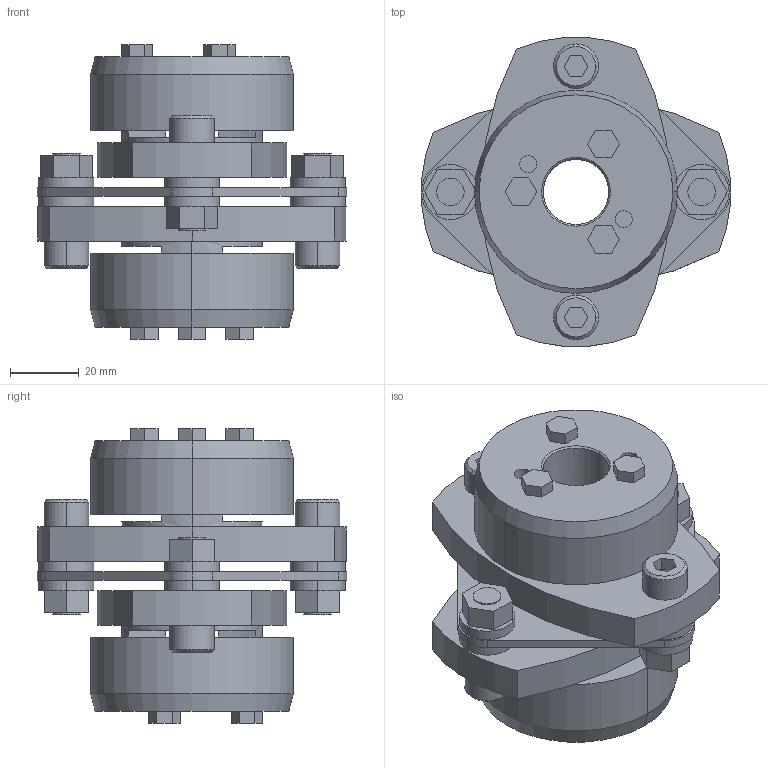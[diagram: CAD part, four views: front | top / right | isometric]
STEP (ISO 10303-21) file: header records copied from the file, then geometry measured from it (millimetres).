
FILE_DESCRIPTION((''),'2;1');
FILE_NAME('LCS-90T7-19×19.stp','2011-09-09T09:50:55',(''),(''),'AutoCAD STEP 2000i','AutoCAD 2000i',', , ');
FILE_SCHEMA(('CONFIG_CONTROL_DESIGN'));
Length unit declared in the file: millimetre
Products named in the file (7): LCS-90T7-19×19; 忣兜1; LC90T7-T019-1; LC90T7-T019; LC90-B019-1; LC90-B019; LCS90-ITA
Assembly tree (6 placements, depth 2):
  LCS-90T7-19×19
    忣兜1
    LC90T7-T019-1
    LC90T7-T019
    LC90-B019-1
    LC90-B019
    LCS90-ITA
Bounding box: 90 x 89.94 x 85.5 mm (x, y, z)
Volume: 208599 mm3; surface area: 52520 mm2
Topology: 1 solids, 1 shells, 232 faces, 568 edges, 372 vertices
Faces by surface type: plane 132, cylinder 80, cone 20
Entity records: 7063 total; most frequent: DIRECTION 1242, CARTESIAN_POINT 1179, ORIENTED_EDGE 1136, EDGE_CURVE 568, AXIS2_PLACEMENT_3D 435, VERTEX_POINT 372, VECTOR 372, LINE 372
